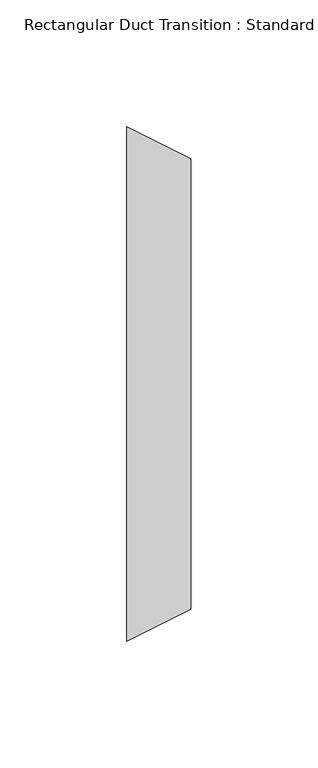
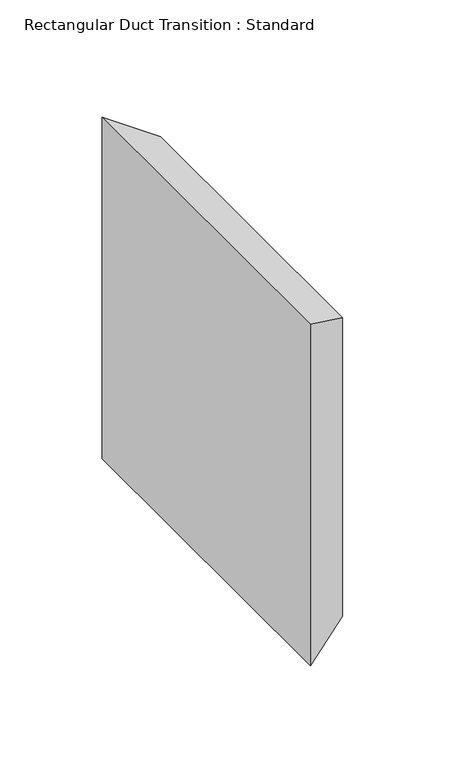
"""IFC4 building model written with IfcOpenShell, lengths in millimetres: duct fitting geometry, Rectangular Duct Transition : Standard."""

from ifc_helpers import new_model, si_unit, origin, place, context, project, spatial, faceted_brep, source, transform, mapped, element, save


def rectangular_duct_transition_standard_54502f12(model_context):
    return source(origin(), model_context, "Body", "Brep", [
        faceted_brep([(25.4, -88.9, 88.9), (25.4, -88.9, -88.9), (25.4, 88.9, -88.9), (25.4, 88.9, 88.9), (0.0, -101.6, 101.6), (0.0, 101.6, 101.6), (0.0, 101.6, -101.6), (0.0, -101.6, -101.6)], [[[0, 1, 2, 3]], [[4, 5, 6, 7]], [[4, 7, 1, 0]], [[7, 6, 2, 1]], [[6, 5, 3, 2]], [[5, 4, 0, 3]]]),
        faceted_brep([(25.4, -88.9, 88.9), (25.4, -88.9, -88.9), (25.4, 88.9, -88.9), (25.4, 88.9, 88.9), (0.0, -101.6, 101.6), (0.0, 101.6, 101.6), (0.0, 101.6, -101.6), (0.0, -101.6, -101.6)], [[[0, 1, 2, 3]], [[4, 5, 6, 7]], [[4, 7, 1, 0]], [[7, 6, 2, 1]], [[6, 5, 3, 2]], [[5, 4, 0, 3]]]),
        faceted_brep([(25.4, -88.9, 88.9), (25.4, -88.9, -88.9), (25.4, 88.9, -88.9), (25.4, 88.9, 88.9), (0.0, -101.6, 101.6), (0.0, 101.6, 101.6), (0.0, 101.6, -101.6), (0.0, -101.6, -101.6)], [[[0, 1, 2, 3]], [[4, 5, 6, 7]], [[4, 7, 1, 0]], [[7, 6, 2, 1]], [[6, 5, 3, 2]], [[5, 4, 0, 3]]]),
    ])


if __name__ == "__main__":
    model = new_model("IFC4")
    model_context = context("Model", 3, world=origin())
    ifc_project = project(units=[si_unit("LENGTHUNIT", "METRE", prefix="MILLI")], contexts=[model_context])
    site = spatial("IfcSite", under=ifc_project)
    building = spatial("IfcBuilding", under=site)
    placement = place(None, origin())
    rectangular_duct_transition_standard_shape = rectangular_duct_transition_standard_54502f12(model_context)
    element("IfcDuctFitting", 1, ObjectType="Rectangular Duct Transition : Standard", at=placement, inside=building, context=model_context, shape_type="MappedRepresentation", body=[
        mapped(rectangular_duct_transition_standard_shape, transform((0.0, 0.0, 0.0), x_axis=(1.0, 0.0, 0.0), y_axis=(0.0, 1.0, 0.0), z_axis=(0.0, 0.0, 1.0))),
    ])
    save(model, "model.ifc")
